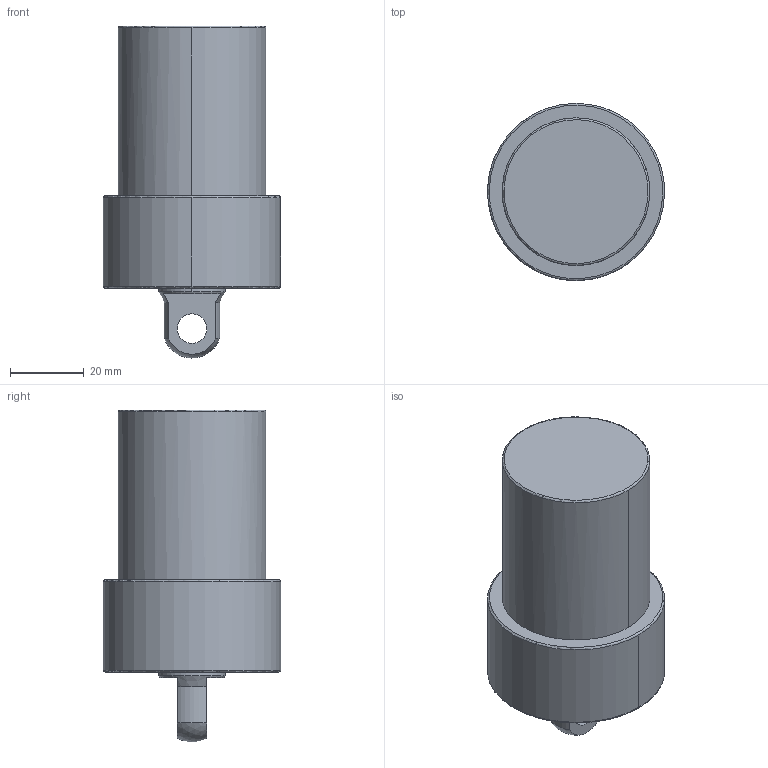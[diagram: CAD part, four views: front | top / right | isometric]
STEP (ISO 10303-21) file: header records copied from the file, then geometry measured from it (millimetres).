
FILE_DESCRIPTION((' '),'2;1');
FILE_NAME( 'TLLU-040GP-035.STEP.stp', '2025-10-24T16:37:15', (' '), ('--- Datakit www.datakit.com---'), ' Datakit CrossCadWare V2024.1 Dec 21 2023', 'Mastercam 2025', ' ');
FILE_SCHEMA(('AUTOMOTIVE_DESIGN { 1 0 10303 214 1 1 1 1 }'));
Length unit declared in the file: millimetre
Products named in the file (1): TLLU-040GP-035
Bounding box: 47.99 x 48 x 89.96 mm (x, y, z)
Volume: 103874.5 mm3; surface area: 14687.5 mm2
Topology: 1 solids, 1 shells, 56 faces, 167 edges, 113 vertices
Faces by surface type: cylinder 22, cone 18, plane 9, torus 6, sphere 1
Entity records: 1952 total; most frequent: DIRECTION 380, CARTESIAN_POINT 341, ORIENTED_EDGE 318, AXIS2_PLACEMENT_3D 168, EDGE_CURVE 159, VERTEX_POINT 113, CIRCLE 111, EDGE_LOOP 66
